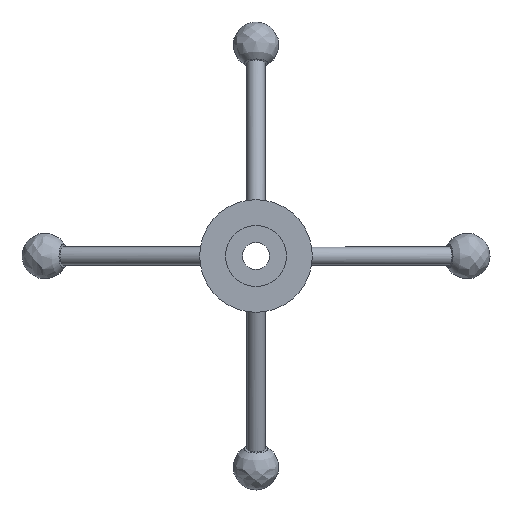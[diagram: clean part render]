
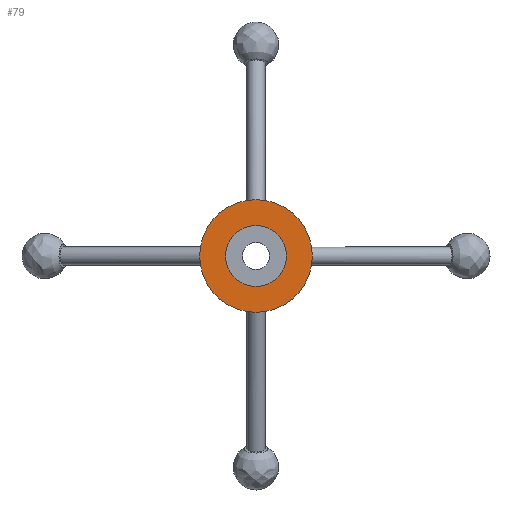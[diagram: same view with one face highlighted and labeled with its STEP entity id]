
A CAD part, front view. The second image highlights one B-rep face of the part: STEP entity #79.
In plain terms, the highlighted planar face has unit normal (0, -1, 0).
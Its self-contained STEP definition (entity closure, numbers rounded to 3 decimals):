
#79 = ADVANCED_FACE( '', ( #107, #108 ), #109, .F. );
#107 = FACE_BOUND( '', #202, .T. );
#108 = FACE_OUTER_BOUND( '', #203, .T. );
#109 = PLANE( '', #204 );
#202 = EDGE_LOOP( '', ( #370 ) );
#203 = EDGE_LOOP( '', ( #371 ) );
#204 = AXIS2_PLACEMENT_3D( '', #372, #373, #374 );
#370 = ORIENTED_EDGE( '', *, *, #446, .F. );
#371 = ORIENTED_EDGE( '', *, *, #447, .T. );
#372 = CARTESIAN_POINT( '', ( 50., 24., 0. ) );
#373 = DIRECTION( '', ( 0., 1., 0. ) );
#374 = DIRECTION( '', ( 0., 0., 1. ) );
#446 = EDGE_CURVE( '', #473, #473, #474, .T. );
#447 = EDGE_CURVE( '', #475, #475, #476, .T. );
#473 = VERTEX_POINT( '', #597 );
#474 = CIRCLE( '', #598, 27. );
#475 = VERTEX_POINT( '', #599 );
#476 = CIRCLE( '', #600, 50. );
#597 = CARTESIAN_POINT( '', ( 0., 24., -27. ) );
#598 = AXIS2_PLACEMENT_3D( '', #903, #904, #905 );
#599 = CARTESIAN_POINT( '', ( 0., 24., -50. ) );
#600 = AXIS2_PLACEMENT_3D( '', #906, #907, #908 );
#903 = CARTESIAN_POINT( '', ( 0., 24., 0. ) );
#904 = DIRECTION( '', ( 0., -1., 0. ) );
#905 = DIRECTION( '', ( 0., 0., -1. ) );
#906 = CARTESIAN_POINT( '', ( 0., 24., 0. ) );
#907 = DIRECTION( '', ( 0., -1., 0. ) );
#908 = DIRECTION( '', ( 0., 0., -1. ) );
